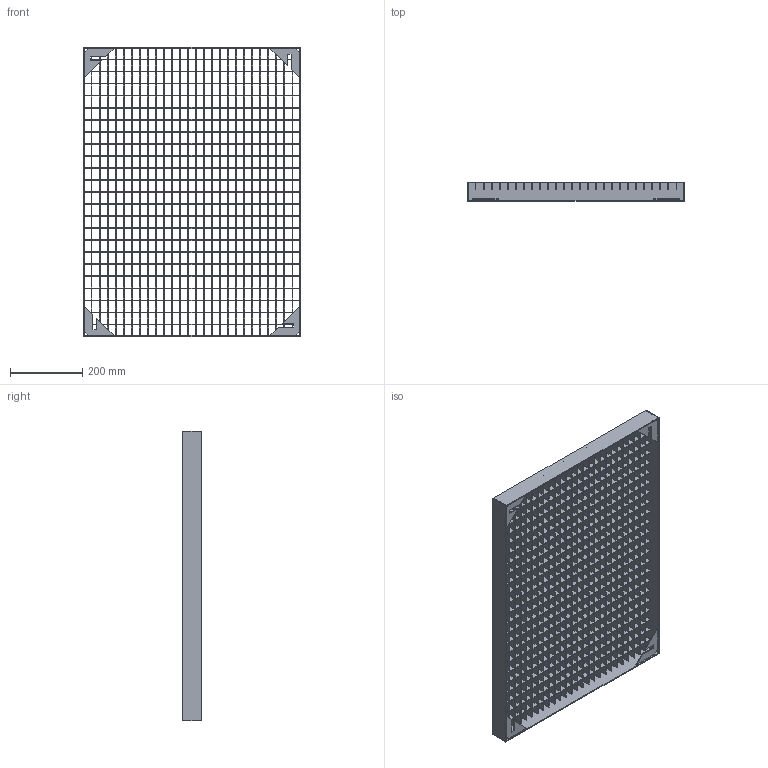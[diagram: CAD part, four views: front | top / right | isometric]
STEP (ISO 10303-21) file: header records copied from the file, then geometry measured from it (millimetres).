
FILE_DESCRIPTION (( 'STEP AP203' ), '1' );
FILE_NAME ('11012608G_Trinrist_600x800_20x30_20x2_mm_.STEP', '2015-01-02T13:58:53', ( '' ), ( '' ), 'SwSTEP 2.0', 'SolidWorks 2013', '' );
FILE_SCHEMA (( 'CONFIG_CONTROL_DESIGN' ));
Length unit declared in the file: millimetre
Products named in the file (6): 11012608G_Tvaerstav_20x2x794_mm_; 11012608G_Kantstaal_50x3x594_mm_; 11012608G_Kantstaal_50x3x800_mm_; 11012608G_Hjoernebeslag_80x80x3_mm_; 11012608G_Trinrist_600x800_20x30_20x2_mm_; 11012608G_Ribbe_20x2x594_mm_
Assembly tree (57 placements, depth 2):
  11012608G_Trinrist_600x800_20x30_20x2_mm_
    11012608G_Ribbe_20x2x594_mm_  x23
    11012608G_Tvaerstav_20x2x794_mm_  x26
    11012608G_Kantstaal_50x3x594_mm_  x2
    11012608G_Kantstaal_50x3x800_mm_  x2
    11012608G_Hjoernebeslag_80x80x3_mm_  x4
Bounding box: 600 x 50 x 800 mm (x, y, z)
Volume: 1776624.9 mm3; surface area: 1836902.2 mm2
Topology: 57 solids, 57 shells, 5142 faces, 15084 edges, 10056 vertices
Faces by surface type: plane 5142
Entity records: 9660 total; most frequent: CARTESIAN_POINT 1390, ORIENTED_EDGE 1320, DIRECTION 1240, EDGE_CURVE 660, LINE 660, VECTOR 660, VERTEX_POINT 440, AXIS2_PLACEMENT_3D 290
